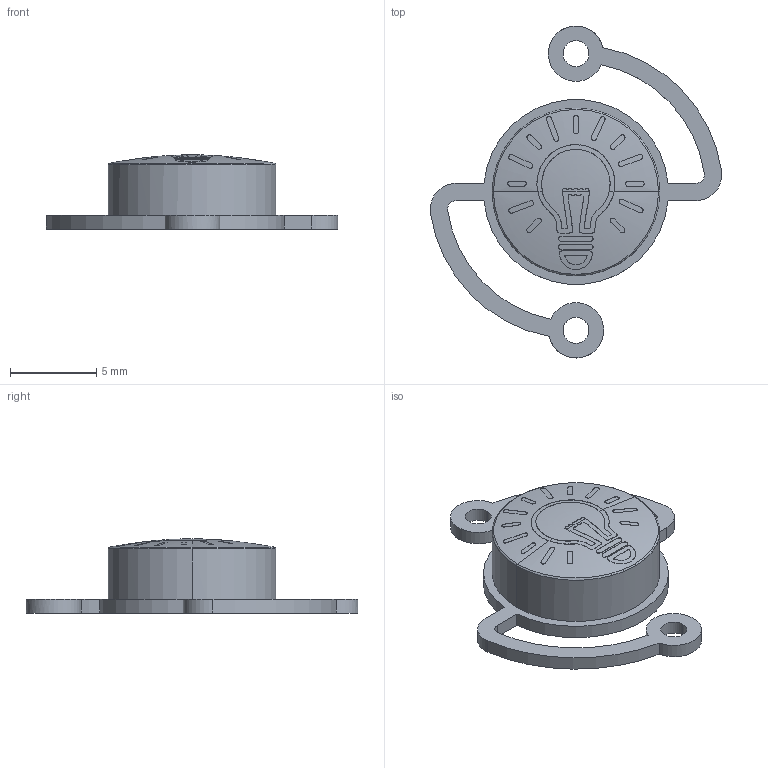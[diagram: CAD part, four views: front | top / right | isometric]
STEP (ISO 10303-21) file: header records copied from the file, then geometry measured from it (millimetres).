
FILE_DESCRIPTION((''),'2;1');
FILE_NAME('ANJIAN_1_1_1_1_1','2025-07-14T14:57:33',('Administrator'),(''),'CREO PARAMETRIC BY PTC INC, 2022073','CREO PARAMETRIC BY PTC INC, 2022073','');
FILE_SCHEMA(('CONFIG_CONTROL_DESIGN'));
Length unit declared in the file: millimetre
Products named in the file (1): ANJIAN_1_1_1_1_1
Bounding box: 16.86 x 19.2 x 4.3 mm (x, y, z)
Volume: 224.2 mm3; surface area: 588.6 mm2
Topology: 1 solids, 1 shells, 174 faces, 456 edges, 305 vertices
Faces by surface type: plane 58, cylinder 54, extrusion 29, revolution 23, bspline 8, torus 2
Entity records: 7608 total; most frequent: CARTESIAN_POINT 3635, ORIENTED_EDGE 908, DIRECTION 602, EDGE_CURVE 454, VERTEX_POINT 305, B_SPLINE_CURVE_WITH_KNOTS 262, EDGE_LOOP 201, VECTOR 195
